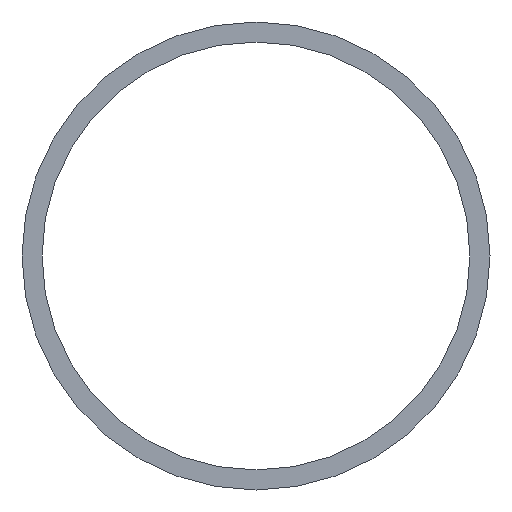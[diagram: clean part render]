
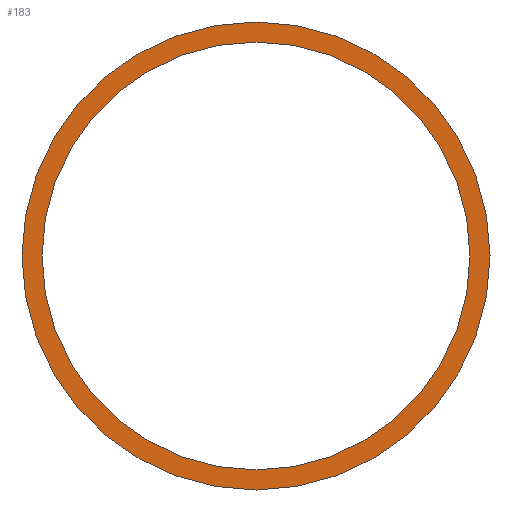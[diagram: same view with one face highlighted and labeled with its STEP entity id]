
A CAD part, left-side view. The second image highlights one B-rep face of the part: STEP entity #183.
In plain terms, the highlighted planar face has unit normal (-1, 0, 0).
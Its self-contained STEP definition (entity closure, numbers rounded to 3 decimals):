
#22 = VERTEX_POINT('',#23);
#23 = CARTESIAN_POINT('',(1411.,105.,0.));
#32 = CYLINDRICAL_SURFACE('',#33,105.);
#33 = AXIS2_PLACEMENT_3D('',#34,#35,#36);
#34 = CARTESIAN_POINT('',(1411.,0.,0.));
#35 = DIRECTION('',(-1.,-0.,-0.));
#36 = DIRECTION('',(0.,1.,0.));
#79 = EDGE_CURVE('',#22,#22,#80,.T.);
#80 = SURFACE_CURVE('',#81,(#86,#93),.PCURVE_S1.);
#81 = CIRCLE('',#82,105.);
#82 = AXIS2_PLACEMENT_3D('',#83,#84,#85);
#83 = CARTESIAN_POINT('',(1411.,0.,0.));
#84 = DIRECTION('',(1.,0.,0.));
#85 = DIRECTION('',(0.,1.,0.));
#86 = PCURVE('',#32,#87);
#87 = DEFINITIONAL_REPRESENTATION('',(#88),#92);
#88 = LINE('',#89,#90);
#89 = CARTESIAN_POINT('',(-0.,0.));
#90 = VECTOR('',#91,1.);
#91 = DIRECTION('',(-1.,0.));
#92 = ( GEOMETRIC_REPRESENTATION_CONTEXT(2) 
PARAMETRIC_REPRESENTATION_CONTEXT() REPRESENTATION_CONTEXT('2D SPACE',''
  ) );
#93 = PCURVE('',#94,#99);
#94 = PLANE('',#95);
#95 = AXIS2_PLACEMENT_3D('',#96,#97,#98);
#96 = CARTESIAN_POINT('',(1411.,0.,
    0.));
#97 = DIRECTION('',(1.,0.,0.));
#98 = DIRECTION('',(-0.,0.,1.));
#99 = DEFINITIONAL_REPRESENTATION('',(#100),#104);
#100 = CIRCLE('',#101,105.);
#101 = AXIS2_PLACEMENT_2D('',#102,#103);
#102 = CARTESIAN_POINT('',(0.,0.));
#103 = DIRECTION('',(0.,-1.));
#104 = ( GEOMETRIC_REPRESENTATION_CONTEXT(2) 
PARAMETRIC_REPRESENTATION_CONTEXT() REPRESENTATION_CONTEXT('2D SPACE',''
  ) );
#110 = VERTEX_POINT('',#111);
#111 = CARTESIAN_POINT('',(1411.,96.,0.));
#120 = CYLINDRICAL_SURFACE('',#121,96.);
#121 = AXIS2_PLACEMENT_3D('',#122,#123,#124);
#122 = CARTESIAN_POINT('',(1411.,0.,
    0.));
#123 = DIRECTION('',(-1.,-0.,-0.));
#124 = DIRECTION('',(0.,1.,0.));
#162 = EDGE_CURVE('',#110,#110,#163,.T.);
#163 = SURFACE_CURVE('',#164,(#169,#176),.PCURVE_S1.);
#164 = CIRCLE('',#165,96.);
#165 = AXIS2_PLACEMENT_3D('',#166,#167,#168);
#166 = CARTESIAN_POINT('',(1411.,0.,
    0.));
#167 = DIRECTION('',(1.,0.,0.));
#168 = DIRECTION('',(0.,1.,0.));
#169 = PCURVE('',#120,#170);
#170 = DEFINITIONAL_REPRESENTATION('',(#171),#175);
#171 = LINE('',#172,#173);
#172 = CARTESIAN_POINT('',(-0.,0.));
#173 = VECTOR('',#174,1.);
#174 = DIRECTION('',(-1.,0.));
#175 = ( GEOMETRIC_REPRESENTATION_CONTEXT(2) 
PARAMETRIC_REPRESENTATION_CONTEXT() REPRESENTATION_CONTEXT('2D SPACE',''
  ) );
#176 = PCURVE('',#94,#177);
#177 = DEFINITIONAL_REPRESENTATION('',(#178),#182);
#178 = CIRCLE('',#179,96.);
#179 = AXIS2_PLACEMENT_2D('',#180,#181);
#180 = CARTESIAN_POINT('',(0.,0.));
#181 = DIRECTION('',(0.,-1.));
#182 = ( GEOMETRIC_REPRESENTATION_CONTEXT(2) 
PARAMETRIC_REPRESENTATION_CONTEXT() REPRESENTATION_CONTEXT('2D SPACE',''
  ) );
#183 = ADVANCED_FACE('',(#184,#187),#94,.F.);
#184 = FACE_BOUND('',#185,.F.);
#185 = EDGE_LOOP('',(#186));
#186 = ORIENTED_EDGE('',*,*,#79,.T.);
#187 = FACE_BOUND('',#188,.F.);
#188 = EDGE_LOOP('',(#189));
#189 = ORIENTED_EDGE('',*,*,#162,.F.);
